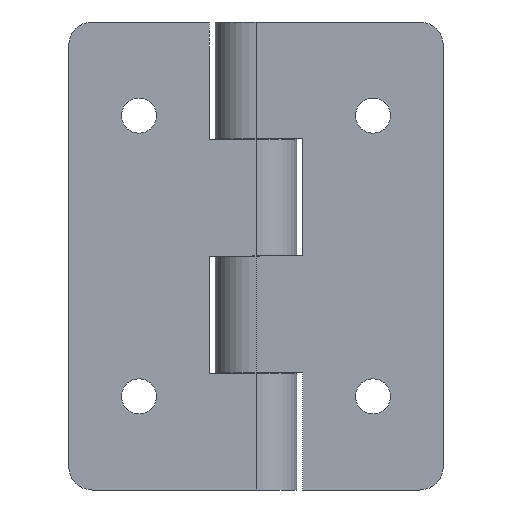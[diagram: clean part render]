
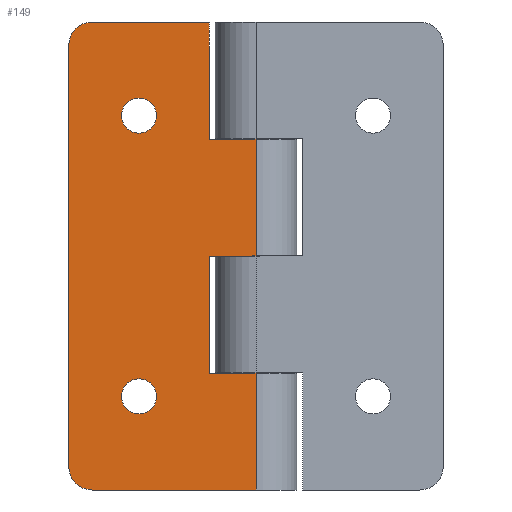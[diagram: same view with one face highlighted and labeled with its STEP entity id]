
A CAD part, front view. The second image highlights one B-rep face of the part: STEP entity #149.
In plain terms, the highlighted planar face has unit normal (0, -1, 0).
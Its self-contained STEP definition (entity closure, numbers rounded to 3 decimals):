
#2 = VERTEX_POINT ( 'NONE', #1014 ) ;
#3 = ORIENTED_EDGE ( 'NONE', *, *, #698, .T. ) ;
#11 = LINE ( 'NONE', #822, #539 ) ;
#13 = VECTOR ( 'NONE', #247, 1000. ) ;
#17 = DIRECTION ( 'NONE',  ( 1., 0., 0. ) ) ;
#23 = CARTESIAN_POINT ( 'NONE',  ( -10., -3.5, 12. ) ) ;
#24 = LINE ( 'NONE', #59, #258 ) ;
#26 = DIRECTION ( 'NONE',  ( 1., 0., 0. ) ) ;
#27 = DIRECTION ( 'NONE',  ( 0., -1., 0. ) ) ;
#52 = DIRECTION ( 'NONE',  ( 0., 0., -1. ) ) ;
#54 = VECTOR ( 'NONE', #1244, 1000. ) ;
#58 = EDGE_CURVE ( 'NONE', #647, #871, #11, .T. ) ;
#59 = CARTESIAN_POINT ( 'NONE',  ( 0., -3.5, 20. ) ) ;
#60 = CARTESIAN_POINT ( 'NONE',  ( -4., -3.5, 0. ) ) ;
#76 = DIRECTION ( 'NONE',  ( 1., 0., 0. ) ) ;
#88 = VECTOR ( 'NONE', #951, 1000. ) ;
#90 = ORIENTED_EDGE ( 'NONE', *, *, #1280, .F. ) ;
#105 = DIRECTION ( 'NONE',  ( 1., 0., 0. ) ) ;
#112 = VERTEX_POINT ( 'NONE', #758 ) ;
#114 = CARTESIAN_POINT ( 'NONE',  ( -4., -3.5, -10. ) ) ;
#121 = DIRECTION ( 'NONE',  ( 1., 0., 0. ) ) ;
#122 = CIRCLE ( 'NONE', #1268, 1.5 ) ;
#134 = EDGE_LOOP ( 'NONE', ( #705, #601 ) ) ;
#149 = ADVANCED_FACE ( 'NONE', ( #447, #710, #941 ), #637, .T. ) ;
#157 = CARTESIAN_POINT ( 'NONE',  ( -8.5, -3.5, -12. ) ) ;
#167 = CARTESIAN_POINT ( 'NONE',  ( -16., -3.5, 20. ) ) ;
#175 = CARTESIAN_POINT ( 'NONE',  ( 0., -3.5, -20. ) ) ;
#182 = CARTESIAN_POINT ( 'NONE',  ( 0., -3.5, 20. ) ) ;
#184 = ORIENTED_EDGE ( 'NONE', *, *, #1157, .F. ) ;
#190 = CARTESIAN_POINT ( 'NONE',  ( -4., -3.5, 0. ) ) ;
#198 = CIRCLE ( 'NONE', #464, 1.5 ) ;
#200 = VERTEX_POINT ( 'NONE', #1138 ) ;
#202 = EDGE_CURVE ( 'NONE', #939, #385, #902, .T. ) ;
#221 = CARTESIAN_POINT ( 'NONE',  ( -14., -3.5, 20. ) ) ;
#233 = AXIS2_PLACEMENT_3D ( 'NONE', #430, #622, #17 ) ;
#235 = VERTEX_POINT ( 'NONE', #865 ) ;
#238 = LINE ( 'NONE', #1123, #476 ) ;
#247 = DIRECTION ( 'NONE',  ( -1., 0., 0. ) ) ;
#248 = ORIENTED_EDGE ( 'NONE', *, *, #202, .F. ) ;
#256 = LINE ( 'NONE', #461, #1260 ) ;
#258 = VECTOR ( 'NONE', #52, 1000. ) ;
#262 = ORIENTED_EDGE ( 'NONE', *, *, #825, .F. ) ;
#271 = ORIENTED_EDGE ( 'NONE', *, *, #1097, .F. ) ;
#297 = EDGE_CURVE ( 'NONE', #385, #1272, #389, .T. ) ;
#313 = LINE ( 'NONE', #1090, #54 ) ;
#337 = CIRCLE ( 'NONE', #418, 1.5 ) ;
#341 = DIRECTION ( 'NONE',  ( 0., -1., 0. ) ) ;
#342 = DIRECTION ( 'NONE',  ( 1., 0., 0. ) ) ;
#378 = LINE ( 'NONE', #182, #13 ) ;
#385 = VERTEX_POINT ( 'NONE', #190 ) ;
#389 = LINE ( 'NONE', #958, #88 ) ;
#415 = CARTESIAN_POINT ( 'NONE',  ( -16., -3.5, -18. ) ) ;
#418 = AXIS2_PLACEMENT_3D ( 'NONE', #843, #1267, #76 ) ;
#424 = CARTESIAN_POINT ( 'NONE',  ( -4., -3.5, -10. ) ) ;
#430 = CARTESIAN_POINT ( 'NONE',  ( -14., -3.5, 18. ) ) ;
#447 = FACE_BOUND ( 'NONE', #134, .T. ) ;
#461 = CARTESIAN_POINT ( 'NONE',  ( 0., -3.5, -20. ) ) ;
#464 = AXIS2_PLACEMENT_3D ( 'NONE', #616, #634, #640 ) ;
#470 = DIRECTION ( 'NONE',  ( -1., 0., 0. ) ) ;
#476 = VECTOR ( 'NONE', #602, 1000. ) ;
#492 = AXIS2_PLACEMENT_3D ( 'NONE', #956, #341, #26 ) ;
#498 = EDGE_CURVE ( 'NONE', #200, #1188, #994, .T. ) ;
#506 = VERTEX_POINT ( 'NONE', #659 ) ;
#510 = ORIENTED_EDGE ( 'NONE', *, *, #1217, .F. ) ;
#512 = CARTESIAN_POINT ( 'NONE',  ( 0., -3.5, -10. ) ) ;
#536 = AXIS2_PLACEMENT_3D ( 'NONE', #1029, #933, #342 ) ;
#539 = VECTOR ( 'NONE', #540, 1000. ) ;
#540 = DIRECTION ( 'NONE',  ( 1., 0., 0. ) ) ;
#596 = ORIENTED_EDGE ( 'NONE', *, *, #980, .T. ) ;
#599 = EDGE_LOOP ( 'NONE', ( #639, #596, #1190, #3, #271, #626, #184, #660, #248, #1235, #1012, #90 ) ) ;
#601 = ORIENTED_EDGE ( 'NONE', *, *, #498, .F. ) ;
#602 = DIRECTION ( 'NONE',  ( 0., 0., -1. ) ) ;
#609 = EDGE_CURVE ( 'NONE', #1188, #200, #337, .T. ) ;
#616 = CARTESIAN_POINT ( 'NONE',  ( -10., -3.5, 12. ) ) ;
#622 = DIRECTION ( 'NONE',  ( 0., -1., 0. ) ) ;
#626 = ORIENTED_EDGE ( 'NONE', *, *, #691, .F. ) ;
#634 = DIRECTION ( 'NONE',  ( 0., -1., 0. ) ) ;
#637 = PLANE ( 'NONE',  #536 ) ;
#639 = ORIENTED_EDGE ( 'NONE', *, *, #657, .T. ) ;
#640 = DIRECTION ( 'NONE',  ( 1., 0., 0. ) ) ;
#647 = VERTEX_POINT ( 'NONE', #972 ) ;
#650 = VECTOR ( 'NONE', #470, 1000. ) ;
#654 = CARTESIAN_POINT ( 'NONE',  ( -10., -3.5, -12. ) ) ;
#657 = EDGE_CURVE ( 'NONE', #1110, #1182, #378, .T. ) ;
#659 = CARTESIAN_POINT ( 'NONE',  ( -14., -3.5, -20. ) ) ;
#660 = ORIENTED_EDGE ( 'NONE', *, *, #297, .F. ) ;
#666 = CARTESIAN_POINT ( 'NONE',  ( -4., -3.5, 20. ) ) ;
#677 = DIRECTION ( 'NONE',  ( 0., -1., 0. ) ) ;
#682 = DIRECTION ( 'NONE',  ( 1., 0., 0. ) ) ;
#685 = CIRCLE ( 'NONE', #233, 2. ) ;
#691 = EDGE_CURVE ( 'NONE', #1273, #891, #313, .T. ) ;
#698 = EDGE_CURVE ( 'NONE', #1089, #506, #817, .T. ) ;
#705 = ORIENTED_EDGE ( 'NONE', *, *, #609, .F. ) ;
#710 = FACE_BOUND ( 'NONE', #897, .T. ) ;
#728 = EDGE_CURVE ( 'NONE', #871, #939, #24, .T. ) ;
#758 = CARTESIAN_POINT ( 'NONE',  ( -11.5, -3.5, 12. ) ) ;
#817 = CIRCLE ( 'NONE', #492, 2. ) ;
#820 = DIRECTION ( 'NONE',  ( -1., 0., 0. ) ) ;
#822 = CARTESIAN_POINT ( 'NONE',  ( -4., -3.5, 10. ) ) ;
#825 = EDGE_CURVE ( 'NONE', #235, #112, #198, .T. ) ;
#843 = CARTESIAN_POINT ( 'NONE',  ( -10., -3.5, -12. ) ) ;
#865 = CARTESIAN_POINT ( 'NONE',  ( -8.5, -3.5, 12. ) ) ;
#868 = VECTOR ( 'NONE', #1229, 1000. ) ;
#871 = VERTEX_POINT ( 'NONE', #1009 ) ;
#887 = EDGE_CURVE ( 'NONE', #2, #1089, #889, .T. ) ;
#889 = LINE ( 'NONE', #167, #868 ) ;
#891 = VERTEX_POINT ( 'NONE', #175 ) ;
#897 = EDGE_LOOP ( 'NONE', ( #262, #510 ) ) ;
#902 = LINE ( 'NONE', #60, #650 ) ;
#933 = DIRECTION ( 'NONE',  ( 0., -1., 0. ) ) ;
#939 = VERTEX_POINT ( 'NONE', #953 ) ;
#941 = FACE_OUTER_BOUND ( 'NONE', #599, .T. ) ;
#951 = DIRECTION ( 'NONE',  ( 0., 0., -1. ) ) ;
#953 = CARTESIAN_POINT ( 'NONE',  ( 0., -3.5, 0. ) ) ;
#954 = VECTOR ( 'NONE', #121, 1000. ) ;
#956 = CARTESIAN_POINT ( 'NONE',  ( -14., -3.5, -18. ) ) ;
#958 = CARTESIAN_POINT ( 'NONE',  ( -4., -3.5, -10. ) ) ;
#972 = CARTESIAN_POINT ( 'NONE',  ( -4., -3.5, 10. ) ) ;
#980 = EDGE_CURVE ( 'NONE', #1182, #2, #685, .T. ) ;
#994 = CIRCLE ( 'NONE', #1259, 1.5 ) ;
#1009 = CARTESIAN_POINT ( 'NONE',  ( 0., -3.5, 10. ) ) ;
#1012 = ORIENTED_EDGE ( 'NONE', *, *, #58, .F. ) ;
#1014 = CARTESIAN_POINT ( 'NONE',  ( -16., -3.5, 18. ) ) ;
#1029 = CARTESIAN_POINT ( 'NONE',  ( 0., -3.5, 20. ) ) ;
#1089 = VERTEX_POINT ( 'NONE', #415 ) ;
#1090 = CARTESIAN_POINT ( 'NONE',  ( 0., -3.5, 20. ) ) ;
#1097 = EDGE_CURVE ( 'NONE', #891, #506, #256, .T. ) ;
#1110 = VERTEX_POINT ( 'NONE', #666 ) ;
#1123 = CARTESIAN_POINT ( 'NONE',  ( -4., -3.5, 10. ) ) ;
#1138 = CARTESIAN_POINT ( 'NONE',  ( -11.5, -3.5, -12. ) ) ;
#1157 = EDGE_CURVE ( 'NONE', #1272, #1273, #1191, .T. ) ;
#1182 = VERTEX_POINT ( 'NONE', #221 ) ;
#1188 = VERTEX_POINT ( 'NONE', #157 ) ;
#1190 = ORIENTED_EDGE ( 'NONE', *, *, #887, .T. ) ;
#1191 = LINE ( 'NONE', #114, #954 ) ;
#1217 = EDGE_CURVE ( 'NONE', #112, #235, #122, .T. ) ;
#1229 = DIRECTION ( 'NONE',  ( 0., 0., -1. ) ) ;
#1235 = ORIENTED_EDGE ( 'NONE', *, *, #728, .F. ) ;
#1244 = DIRECTION ( 'NONE',  ( 0., 0., -1. ) ) ;
#1259 = AXIS2_PLACEMENT_3D ( 'NONE', #654, #677, #682 ) ;
#1260 = VECTOR ( 'NONE', #820, 1000. ) ;
#1267 = DIRECTION ( 'NONE',  ( 0., -1., 0. ) ) ;
#1268 = AXIS2_PLACEMENT_3D ( 'NONE', #23, #27, #105 ) ;
#1272 = VERTEX_POINT ( 'NONE', #424 ) ;
#1273 = VERTEX_POINT ( 'NONE', #512 ) ;
#1280 = EDGE_CURVE ( 'NONE', #1110, #647, #238, .T. ) ;
